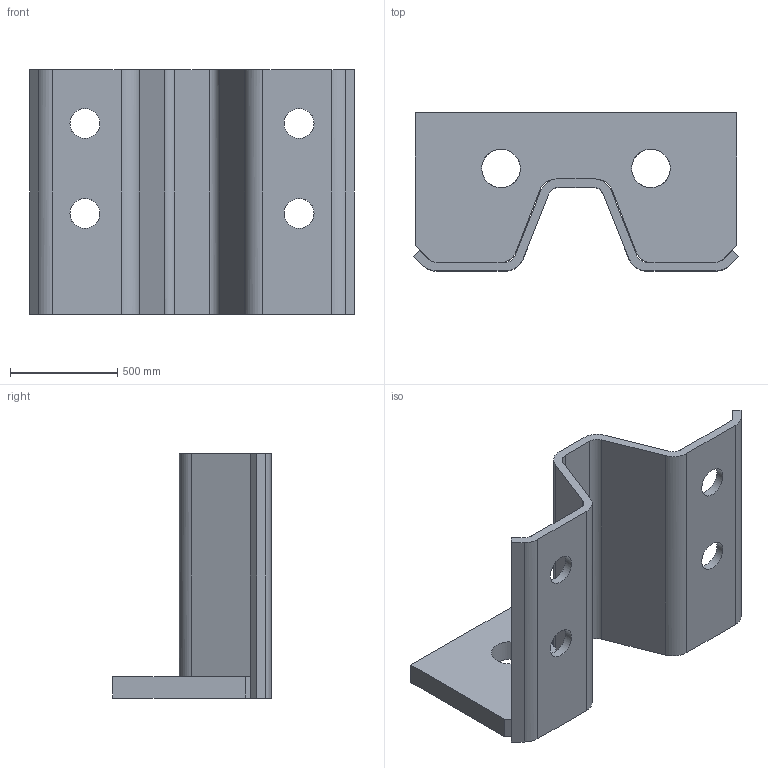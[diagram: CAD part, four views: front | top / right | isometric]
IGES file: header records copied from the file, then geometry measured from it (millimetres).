
Global section: file name: ZB125W70; native system: Autodesk RealDWG; preprocessor: Autodesk Translation Framework DWG producer (atf_dwg_producer); organization: unknown; date: 20241104.112909; units: centimetre
Bounding box: 1517.2 x 740 x 1140 mm (x, y, z)
Volume: 171259630.5 mm3; surface area: 7026542 mm2
Topology: 2 solids, 2 shells, 54 faces, 160 edges, 110 vertices
Faces by surface type: bspline 54
